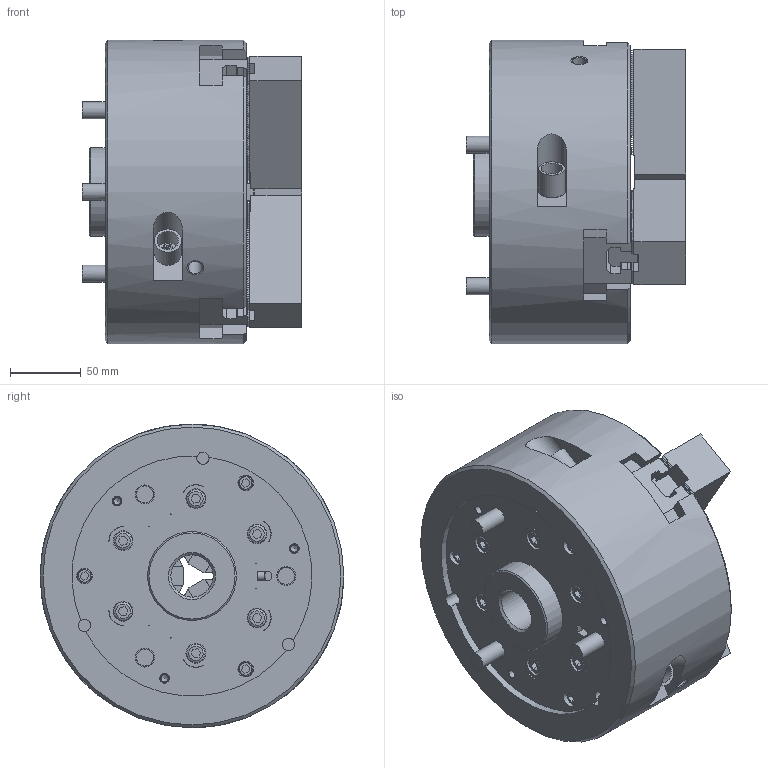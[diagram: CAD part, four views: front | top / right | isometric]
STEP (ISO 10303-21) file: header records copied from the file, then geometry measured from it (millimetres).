
FILE_DESCRIPTION (( 'STEP AP214' ), '1' );
FILE_NAME ('BL-208_61P265081-4_OC.STEP', '2020-03-24T03:14:02', ( '' ), ( '' ), 'SwSTEP 2.0', 'SolidWorks 2017', '' );
FILE_SCHEMA (( 'AUTOMOTIVE_DESIGN' ));
Length unit declared in the file: millimetre
Products named in the file (18): 61P304291-3_ソフトジョー_W_‡_[; B傾僫僣僉 M12亊302_~30; 61P417260-1_俿僫僢僩_b_g; BL-208_61P265081-4_OC; Part1^61P228791-4_クミタテ_^_e; 61P417260-1_俿僫僢僩_b_g_棉太倌I佱UA; 61P304291-3_ソフトジョー_W_‡_[_ﾃﾞﾌｫﾙﾄ_ATI≪UA; Part1^61P228791-4_僋儈僞僥_^_e_棉太倌I佱UA; B傾僫僣僉 M12亊302_~30_棉太倌TI佱UA
Assembly tree (13 placements, depth 2):
  61P304291-3_ソフトジョー_W_‡_[
  B傾僫僣僉 M12亊302_~30
  61P417260-1_俿僫僢僩_b_g
  BL-208_61P265081-4_OC
    61P417260-1_俿僫僢僩_b_g_棉太倌I佱UA  x3
    61P304291-3_ソフトジョー_W_‡_[_ﾃﾞﾌｫﾙﾄ_ATI≪UA  x3
    B傾僫僣僉 M12亊302_~30_棉太倌TI佱UA  x6
    Part1^61P228791-4_僋儈僞僥_^_e_棉太倌I佱UA
  61P304291-3_ソフトジョー_W_‡_[
Bounding box: 155.2 x 215 x 215 mm (x, y, z)
Volume: 3618841.7 mm3; surface area: 309701.8 mm2
Topology: 13 solids, 31 shells, 3328 faces, 9369 edges, 6234 vertices
Faces by surface type: plane 2397, cylinder 758, bspline 107, cone 53, sphere 7, torus 6
Full cylindrical faces by diameter (mm): 1.9 x3, 5 x3, 5.4 x3, 5.5 x3, 6 x4, 8 x6, 8.6 x3, 9 x11, 10 x8, 11 x3, 12 x15, 13 x12, 13.5 x3, 14 x6, 15 x3, 17.5 x3, 18 x12, 19 x9, 20 x3, 30 x1, 45 x1, 48.6 x1, 55.5 x1, 63 x1, 215 x1
Entity records: 71354 total; most frequent: CARTESIAN_POINT 17944, ORIENTED_EDGE 11604, DIRECTION 9728, EDGE_CURVE 5802, LINE 4754, VECTOR 4754, VERTEX_POINT 3926, AXIS2_PLACEMENT_3D 2487
